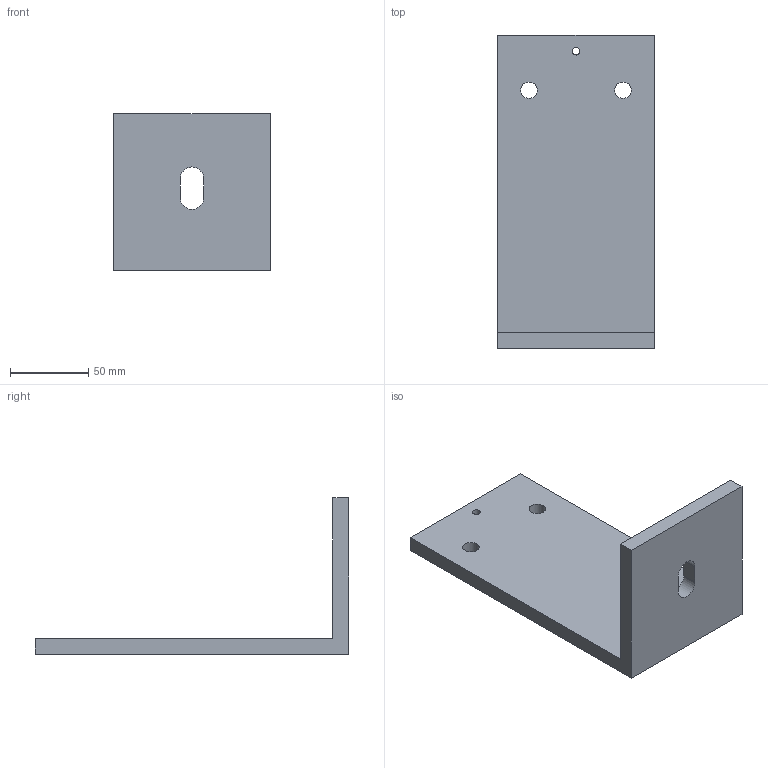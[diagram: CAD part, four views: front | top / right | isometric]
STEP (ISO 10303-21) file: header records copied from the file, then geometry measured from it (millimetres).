
FILE_DESCRIPTION(/* description */ (''),/* implementation_level */ '2;1');
FILE_NAME(/* name */ 'Pos144-Hoeklijn 200x100x10-Aluminium-46st',/* time_stamp */ '2024-08-06T11:49:45+02:00',/* author */ (''),/* organization */ (''),/* preprocessor_version */ 'ST-DEVELOPER v16.5',/* originating_system */ 'HiCAD 2024 2901.2 Build 361',/* authorisation */ '');
FILE_SCHEMA (('AUTOMOTIVE_DESIGN { 1 0 10303 214 1 1 1 1 }'));
Length unit declared in the file: millimetre
Products named in the file (1): Pos144-Hoeklijn 200x100x10-Aluminium-46st
Bounding box: 100 x 200 x 100 mm (x, y, z)
Volume: 284504.7 mm3; surface area: 66229 mm2
Topology: 1 solids, 1 shells, 15 faces, 39 edges, 26 vertices
Faces by surface type: plane 10, cylinder 5
Full cylindrical faces by diameter (mm): 5 x1, 10.5 x2
Entity records: 842 total; most frequent: CARTESIAN_POINT 77, DIRECTION 76, PRESENTATION_STYLE_ASSIGNMENT 73, COLOUR_RGB 73, DRAUGHTING_PRE_DEFINED_CURVE_FONT 72, CURVE_STYLE 72, OVER_RIDING_STYLED_ITEM 72, ORIENTED_EDGE 72
